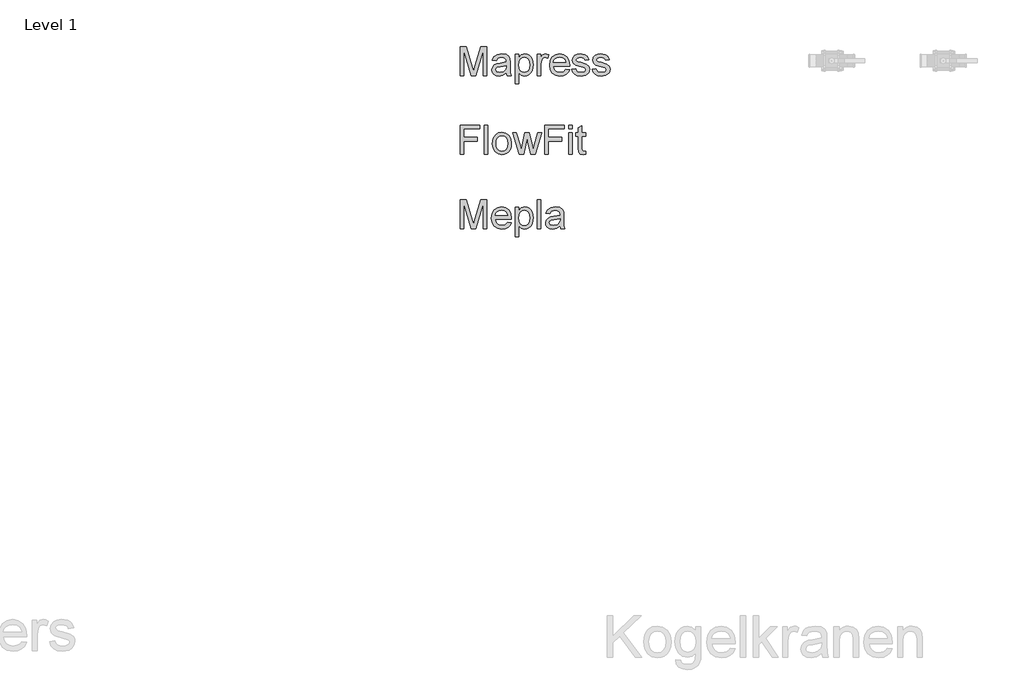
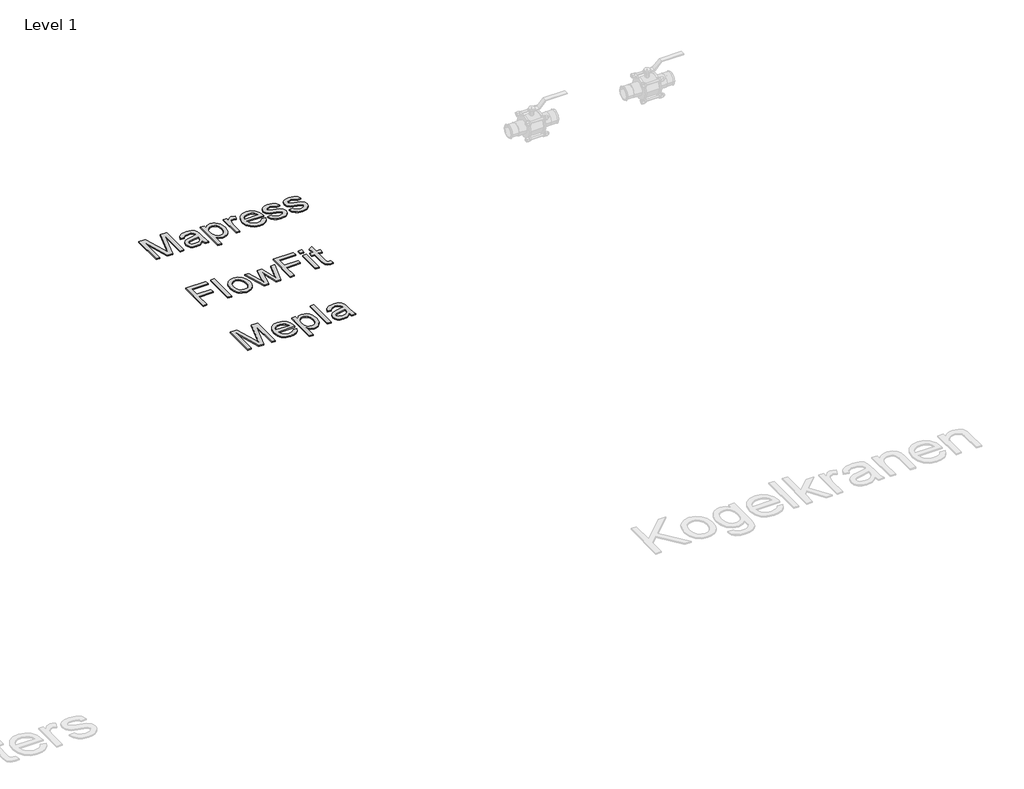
# One storey, part 4 of 4: 3 proxies.
"""IFC4 building model written with IfcOpenShell, lengths in millimetres."""

from ifc_helpers import new_model, si_unit, origin, origin_with_axes, place, context, project, spatial, polyline, outline, extrude, element, save

model = new_model("IFC4")

# Units and contexts
model_context = context("Model", 3, world=origin())
ifc_project = project(units=[si_unit("LENGTHUNIT", "METRE", prefix="MILLI")], contexts=[model_context])

# Site, building, storey
site = spatial("IfcSite", under=ifc_project)
building = spatial("IfcBuilding", under=site)
storey = spatial("IfcBuildingStorey", under=building, Name="Level 1", Elevation=0.0)

# Proxies
placement = place(None, origin())
element("IfcBuildingElementProxy", 1, Name="small", ObjectType="small", at=placement, inside=storey, context=model_context, shape_type="SweptSolid", body=[
    extrude(outline(polyline([(2444.7935537, 5718.9619491), (2444.7935537, 5859.6007833), (2475.0432639, 5859.6007833), (2503.816541, 5760.4737534), (2509.6192664, 5739.7693547), (2515.9026909, 5762.1905361), (2544.1952688, 5859.6007833), (2574.444979, 5859.6007833), (2574.444979, 5718.9619491), (2556.8651248, 5718.9619491), (2556.8651248, 5842.020929), (2521.5337379, 5718.9619491), (2497.7047948, 5718.9619491), (2462.373408, 5842.020929), (2462.373408, 5718.9619491), (2444.7935537, 5718.9619491)])), origin_with_axes(), (0.0, 0.0, 1.0), 5.0),
    extrude(outline(polyline([(2668.9366958, 5732.1468398), (2651.8890441, 5720.2323682), (2633.0559385, 5716.7644673), (2618.364571, 5718.8503582), (2607.5273806, 5725.1080309), (2600.8448041, 5734.6104229), (2598.6172787, 5746.4304714), (2601.9821726, 5760.3364108), (2610.8236033, 5770.4310927), (2623.1329348, 5776.1994824), (2638.343629, 5778.8433277), (2668.8336888, 5784.8864026), (2668.9366958, 5788.800667), (2667.726364, 5796.6463637), (2664.0953687, 5801.7795438), (2655.9749868, 5805.5908013), (2644.6613892, 5806.8612205), (2626.875521, 5803.4791586), (2618.3946147, 5791.478848), (2600.8147604, 5793.6763297), (2608.4201076, 5810.8441562), (2623.7338087, 5820.9045025), (2646.9275423, 5824.4410747), (2668.2328149, 5821.3165303), (2680.2674612, 5813.4708336), (2685.6581587, 5801.5391943), (2686.51655, 5786.1568218), (2686.51655, 5764.2850109), (2687.409277, 5733.7434476), (2690.9115136, 5718.9619491), (2673.3316593, 5718.9619491), (2668.9366958, 5732.1468398)]), holes=[polyline([(2668.9366958, 5767.3065483), (2640.5754465, 5761.9158508), (2625.4505914, 5759.0659916), (2618.6006286, 5754.4306785), (2616.1971329, 5747.6665549), (2621.43332, 5738.155579), (2636.7985247, 5734.3443216), (2654.5843929, 5738.550439), (2666.0525009, 5748.7309601), (2668.8336888, 5762.3278787), (2668.9366958, 5767.3065483)])]), origin_with_axes(), (0.0, 0.0, 1.0), 5.0),
    extrude(outline(polyline([(2710.6888497, 5679.407277), (2710.6888497, 5822.2435929), (2728.2687039, 5822.2435929), (2728.2687039, 5805.0070952), (2740.4235251, 5819.5825798), (2756.8359671, 5824.4410747), (2768.724687, 5822.7414599), (2779.1198059, 5817.6426155), (2787.5835443, 5809.4535622), (2793.6781227, 5798.4833211), (2798.5881211, 5771.392491), (2793.0429131, 5742.911067), (2786.2444538, 5731.7348119), (2776.9394919, 5723.5114231), (2766.1023015, 5718.4512062), (2754.7071567, 5716.7644673), (2739.4106233, 5721.2796056), (2728.2687039, 5732.6962102), (2728.2687039, 5679.407277), (2710.6888497, 5679.407277)]), holes=[polyline([(2728.2687039, 5769.7787153), (2730.1700407, 5754.0186507), (2735.8740511, 5742.9969061), (2744.290578, 5736.5074677), (2754.3294645, 5734.3443216), (2764.5314453, 5736.5847229), (2773.1625701, 5743.305927), (2779.0468426, 5754.7311155), (2781.0082668, 5771.0834701), (2779.0940541, 5786.7576957), (2773.3514162, 5797.9339507), (2764.9477651, 5804.629403), (2755.0505132, 5806.8612205), (2745.1146336, 5804.4877684), (2736.3890859, 5797.3674124), (2730.2987994, 5785.7233341), (2728.2687039, 5769.7787153)])]), origin_with_axes(), (0.0, 0.0, 1.0), 5.0),
    extrude(outline(polyline([(2818.3654571, 5718.9619491), (2818.3654571, 5822.2435929), (2833.7478296, 5822.2435929), (2833.7478296, 5806.9642274), (2844.6665672, 5821.0418451), (2855.6539761, 5824.4410747), (2873.3025017, 5819.0160416), (2867.4311051, 5803.2559769), (2855.07027, 5806.8612205), (2845.1300985, 5803.3933195), (2838.7951706, 5793.7793367), (2835.9453114, 5773.2466163), (2835.9453114, 5718.9619491), (2818.3654571, 5718.9619491)])), origin_with_axes(), (0.0, 0.0, 1.0), 5.0),
    extrude(outline(polyline([(2956.6007956, 5749.7266941), (2973.8372934, 5747.5292123), (2967.6268322, 5734.5417516), (2957.7167043, 5724.8333457), (2944.3300917, 5718.7816869), (2927.6901759, 5716.7644673), (2907.0630324, 5720.2452441), (2891.1913769, 5730.6875745), (2881.0709432, 5747.4133294), (2877.6974653, 5769.7443797), (2881.1052788, 5792.8265223), (2891.3287195, 5810.0887718), (2906.9857772, 5820.852999), (2926.694442, 5824.4410747), (2945.7893569, 5820.8615829), (2961.0472627, 5810.1231075), (2971.0518135, 5792.8951936), (2974.3866638, 5769.8473866), (2974.2836569, 5765.1090665), (2895.2773196, 5765.1090665), (2898.3203168, 5751.9499276), (2905.3891693, 5742.2758574), (2915.5911502, 5736.3272055), (2928.0335324, 5734.3443216), (2945.2700302, 5738.0182364), (2956.6007956, 5749.7266941)]), holes=[polyline([(2895.2773196, 5782.6889208), (2956.8068095, 5782.6889208), (2949.7680007, 5798.6206638), (2939.5188083, 5804.8010813), (2926.6257707, 5806.8612205), (2914.7756785, 5805.2174011), (2904.9771415, 5800.2859429), (2898.1658064, 5792.5990486), (2895.2773196, 5782.6889208)])]), origin_with_axes(), (0.0, 0.0, 1.0), 5.0),
    extrude(outline(polyline([(2985.3740727, 5749.7266941), (3002.953927, 5751.9241758), (3005.726531, 5744.4046679), (3011.0914767, 5738.8766277), (3029.7357363, 5734.3443216), (3047.6589471, 5738.4989356), (3053.4960081, 5748.250261), (3047.6246114, 5756.1474611), (3029.5297223, 5761.1604665), (3003.056934, 5769.7615475), (2991.5029868, 5779.804726), (2987.5715545, 5793.9853506), (2990.7304346, 5807.0844022), (2999.3486835, 5817.093245), (3010.5249385, 5822.2950964), (3025.6497936, 5824.4410747), (3047.0409053, 5820.9903416), (3060.6378239, 5811.651044), (3066.6808988, 5795.8738115), (3049.1010445, 5793.6763297), (3042.4914313, 5803.3761517), (3027.0232197, 5806.8612205), (3010.1987498, 5803.5306621), (3005.1514088, 5795.7708046), (3007.2458836, 5790.6547923), (3013.8039933, 5786.7748635), (3028.9460162, 5783.0322774), (3054.7492594, 5774.757385), (3066.7324022, 5765.3837518), (3071.0758623, 5750.1043862), (3065.9770179, 5733.2799163), (3051.2641906, 5721.0735917), (3029.4953867, 5716.7644673), (3011.7696059, 5718.8417743), (2998.8336487, 5725.0736953), (2990.198232, 5735.391559), (2985.3740727, 5749.7266941)])), origin_with_axes(), (0.0, 0.0, 1.0), 5.0),
    extrude(outline(polyline([(3084.260753, 5749.7266941), (3101.8406073, 5751.9241758), (3104.6132113, 5744.4046679), (3109.978157, 5738.8766277), (3128.6224166, 5734.3443216), (3146.5456274, 5738.4989356), (3152.3826884, 5748.250261), (3146.5112917, 5756.1474611), (3128.4164026, 5761.1604665), (3101.9436143, 5769.7615475), (3090.3896671, 5779.804726), (3086.4582348, 5793.9853506), (3089.6171149, 5807.0844022), (3098.2353638, 5817.093245), (3109.4116188, 5822.2950964), (3124.5364739, 5824.4410747), (3145.9275856, 5820.9903416), (3159.5245042, 5811.651044), (3165.5675791, 5795.8738115), (3147.9877248, 5793.6763297), (3141.3781116, 5803.3761517), (3125.9099, 5806.8612205), (3109.0854301, 5803.5306621), (3104.0380891, 5795.7708046), (3106.1325639, 5790.6547923), (3112.6906736, 5786.7748635), (3127.8326965, 5783.0322774), (3153.6359397, 5774.757385), (3165.6190825, 5765.3837518), (3169.9625426, 5750.1043862), (3164.8636982, 5733.2799163), (3150.1508709, 5721.0735917), (3128.382067, 5716.7644673), (3110.6562862, 5718.8417743), (3097.720329, 5725.0736953), (3089.0849123, 5735.391559), (3084.260753, 5749.7266941)])), origin_with_axes(), (0.0, 0.0, 1.0), 5.0),
])
element("IfcBuildingElementProxy", 2, Name="small", ObjectType="small", at=placement, inside=storey, context=model_context, shape_type="SweptSolid", body=[
    extrude(outline(polyline([(2444.7935537, 5338.9619491), (2444.7935537, 5479.6007833), (2539.2852705, 5479.6007833), (2539.2852705, 5462.020929), (2462.373408, 5462.020929), (2462.373408, 5420.2687751), (2528.2978616, 5420.2687751), (2528.2978616, 5402.6889208), (2462.373408, 5402.6889208), (2462.373408, 5338.9619491), (2444.7935537, 5338.9619491)])), origin_with_axes(), (0.0, 0.0, 1.0), 5.0),
    extrude(outline(polyline([(2561.2600883, 5338.9619491), (2561.2600883, 5479.6007833), (2578.8399426, 5479.6007833), (2578.8399426, 5338.9619491), (2561.2600883, 5338.9619491)])), origin_with_axes(), (0.0, 0.0, 1.0), 5.0),
    extrude(outline(polyline([(2600.8147604, 5390.602771), (2604.617434, 5415.5047033), (2616.0254547, 5433.0073023), (2630.1202402, 5441.5826316), (2646.9962136, 5444.4410747), (2665.4645029, 5440.9602979), (2680.2159577, 5430.5179675), (2689.885736, 5413.9381391), (2693.1089954, 5392.0448684), (2691.6840658, 5374.284752), (2687.409277, 5360.7650887), (2680.4090958, 5350.640363), (2670.8079888, 5343.0650596), (2659.4042601, 5338.3396154), (2646.9962136, 5336.7644673), (2628.3047425, 5340.2323682), (2613.5704555, 5350.6360711), (2604.0036842, 5367.5635479), (2600.8147604, 5390.602771)]), holes=[polyline([(2618.3946147, 5390.6371067), (2620.4290022, 5374.7268235), (2626.5321645, 5363.3917661), (2635.7169516, 5356.6061827), (2646.9962136, 5354.3443216), (2658.2239721, 5356.6190586), (2667.3915914, 5363.4432696), (2673.4947537, 5374.9285455), (2675.5291411, 5391.1864771), (2673.4818778, 5406.6332289), (2667.3400879, 5417.8137759), (2658.1595927, 5424.5993593), (2646.9962136, 5426.8612205), (2635.7169516, 5424.6079432), (2626.5321645, 5417.8481116), (2620.4290022, 5406.5388059), (2618.3946147, 5390.6371067)])]), origin_with_axes(), (0.0, 0.0, 1.0), 5.0),
    extrude(outline(polyline([(2730.0198222, 5338.9619491), (2698.6026999, 5442.2435929), (2716.8692672, 5442.2435929), (2734.689471, 5381.9845221), (2740.0114972, 5360.4560678), (2744.3721251, 5381.1948021), (2758.5527498, 5442.2435929), (2779.497498, 5442.2435929), (2793.6094514, 5381.3664804), (2797.4893802, 5362.5848783), (2803.0517559, 5382.39655), (2820.9062954, 5442.2435929), (2839.2415341, 5442.2435929), (2807.5840621, 5338.9619491), (2786.330293, 5338.9619491), (2772.8363814, 5399.5300408), (2768.922117, 5418.4146498), (2751.5139409, 5338.9619491), (2730.0198222, 5338.9619491)])), origin_with_axes(), (0.0, 0.0, 1.0), 5.0),
    extrude(outline(polyline([(2853.5251657, 5338.9619491), (2853.5251657, 5479.6007833), (2948.0168824, 5479.6007833), (2948.0168824, 5462.020929), (2871.1050199, 5462.020929), (2871.1050199, 5420.2687751), (2937.0294735, 5420.2687751), (2937.0294735, 5402.6889208), (2871.1050199, 5402.6889208), (2871.1050199, 5338.9619491), (2853.5251657, 5338.9619491)])), origin_with_axes(), (0.0, 0.0, 1.0), 5.0),
    extrude(outline(polyline([(2969.9917002, 5462.020929), (2969.9917002, 5479.6007833), (2987.5715545, 5479.6007833), (2987.5715545, 5462.020929), (2969.9917002, 5462.020929)])), origin_with_axes(), (0.0, 0.0, 1.0), 5.0),
    extrude(outline(polyline([(2969.9917002, 5338.9619491), (2969.9917002, 5442.2435929), (2987.5715545, 5442.2435929), (2987.5715545, 5338.9619491), (2969.9917002, 5338.9619491)])), origin_with_axes(), (0.0, 0.0, 1.0), 5.0),
    extrude(outline(polyline([(3051.2985263, 5353.6232729), (3053.4960081, 5338.4469143), (3040.345453, 5336.7644673), (3025.6154579, 5339.6829978), (3018.2676282, 5347.3398484), (3016.1388177, 5367.2888627), (3016.1388177, 5424.6637387), (3002.953927, 5424.6637387), (3002.953927, 5442.2435929), (3016.1388177, 5442.2435929), (3016.1388177, 5467.3429552), (3033.718672, 5477.6779867), (3033.718672, 5442.2435929), (3051.2985263, 5442.2435929), (3051.2985263, 5424.6637387), (3033.718672, 5424.6637387), (3033.718672, 5367.8038975), (3034.6457346, 5358.7392851), (3037.6501043, 5355.5289016), (3043.6416757, 5354.3443216), (3051.2985263, 5353.6232729)])), origin_with_axes(), (0.0, 0.0, 1.0), 5.0),
])
element("IfcBuildingElementProxy", 3, Name="small", ObjectType="small", at=placement, inside=storey, context=model_context, shape_type="SweptSolid", body=[
    extrude(outline(polyline([(2444.7935537, 4978.9619491), (2444.7935537, 5119.6007833), (2475.0432639, 5119.6007833), (2503.816541, 5020.4737534), (2509.6192664, 4999.7693547), (2515.9026909, 5022.1905361), (2544.1952688, 5119.6007833), (2574.444979, 5119.6007833), (2574.444979, 4978.9619491), (2556.8651248, 4978.9619491), (2556.8651248, 5102.020929), (2521.5337379, 4978.9619491), (2497.7047948, 4978.9619491), (2462.373408, 5102.020929), (2462.373408, 4978.9619491), (2444.7935537, 4978.9619491)])), origin_with_axes(), (0.0, 0.0, 1.0), 5.0),
    extrude(outline(polyline([(2675.3231272, 5009.7266941), (2692.5596249, 5007.5292123), (2686.3491637, 4994.5417516), (2676.4390359, 4984.8333457), (2663.0524233, 4978.7816869), (2646.4125075, 4976.7644673), (2625.785364, 4980.2452441), (2609.9137085, 4990.6875745), (2599.7932748, 5007.4133294), (2596.4197969, 5029.7443797), (2599.8276104, 5052.8265223), (2610.0510511, 5070.0887718), (2625.7081088, 5080.852999), (2645.4167735, 5084.4410747), (2664.5116885, 5080.8615829), (2679.7695942, 5070.1231075), (2689.7741451, 5052.8951936), (2693.1089954, 5029.8473866), (2693.0059884, 5025.1090665), (2613.9996512, 5025.1090665), (2617.0426484, 5011.9499276), (2624.1115009, 5002.2758574), (2634.3134818, 4996.3272055), (2646.755864, 4994.3443216), (2663.9923617, 4998.0182364), (2675.3231272, 5009.7266941)]), holes=[polyline([(2613.9996512, 5042.6889208), (2675.5291411, 5042.6889208), (2668.4903323, 5058.6206638), (2658.2411399, 5064.8010813), (2645.3481022, 5066.8612205), (2633.49801, 5065.2174011), (2623.6994731, 5060.2859429), (2616.888138, 5052.5990486), (2613.9996512, 5042.6889208)])]), origin_with_axes(), (0.0, 0.0, 1.0), 5.0),
    extrude(outline(polyline([(2710.6888497, 4939.407277), (2710.6888497, 5082.2435929), (2728.2687039, 5082.2435929), (2728.2687039, 5065.0070952), (2740.4235251, 5079.5825798), (2756.8359671, 5084.4410747), (2768.724687, 5082.7414599), (2779.1198059, 5077.6426155), (2787.5835443, 5069.4535622), (2793.6781227, 5058.4833211), (2798.5881211, 5031.392491), (2793.0429131, 5002.911067), (2786.2444538, 4991.7348119), (2776.9394919, 4983.5114231), (2766.1023015, 4978.4512062), (2754.7071567, 4976.7644673), (2739.4106233, 4981.2796056), (2728.2687039, 4992.6962102), (2728.2687039, 4939.407277), (2710.6888497, 4939.407277)]), holes=[polyline([(2728.2687039, 5029.7787153), (2730.1700407, 5014.0186507), (2735.8740511, 5002.9969061), (2744.290578, 4996.5074677), (2754.3294645, 4994.3443216), (2764.5314453, 4996.5847229), (2773.1625701, 5003.305927), (2779.0468426, 5014.7311155), (2781.0082668, 5031.0834701), (2779.0940541, 5046.7576957), (2773.3514162, 5057.9339507), (2764.9477651, 5064.629403), (2755.0505132, 5066.8612205), (2745.1146336, 5064.4877684), (2736.3890859, 5057.3674124), (2730.2987994, 5045.7233341), (2728.2687039, 5029.7787153)])]), origin_with_axes(), (0.0, 0.0, 1.0), 5.0),
    extrude(outline(polyline([(2818.3654571, 4978.9619491), (2818.3654571, 5119.6007833), (2835.9453114, 5119.6007833), (2835.9453114, 4978.9619491), (2818.3654571, 4978.9619491)])), origin_with_axes(), (0.0, 0.0, 1.0), 5.0),
    extrude(outline(polyline([(2928.2395463, 4992.1468398), (2911.1918947, 4980.2323682), (2892.3587891, 4976.7644673), (2877.6674216, 4978.8503582), (2866.8302312, 4985.1080309), (2860.1476547, 4994.6104229), (2857.9201292, 5006.4304714), (2861.2850232, 5020.3364108), (2870.1264538, 5030.4310927), (2882.4357854, 5036.1994824), (2897.6464796, 5038.8433277), (2928.1365394, 5044.8864026), (2928.2395463, 5048.800667), (2927.0292146, 5056.6463637), (2923.3982193, 5061.7795438), (2915.2778374, 5065.5908013), (2903.9642397, 5066.8612205), (2886.1783716, 5063.4791586), (2877.6974653, 5051.478848), (2860.117611, 5053.6763297), (2867.7229581, 5070.8441562), (2883.0366593, 5080.9045025), (2906.2303928, 5084.4410747), (2927.5356655, 5081.3165303), (2939.5703118, 5073.4708336), (2944.9610093, 5061.5391943), (2945.8194006, 5046.1568218), (2945.8194006, 5024.2850109), (2946.7121276, 4993.7434476), (2950.2143642, 4978.9619491), (2932.6345099, 4978.9619491), (2928.2395463, 4992.1468398)]), holes=[polyline([(2928.2395463, 5027.3065483), (2899.8782971, 5021.9158508), (2884.753442, 5019.0659916), (2877.9034792, 5014.4306785), (2875.4999835, 5007.6665549), (2880.7361706, 4998.155579), (2896.1013752, 4994.3443216), (2913.8872434, 4998.550439), (2925.3553515, 5008.7309601), (2928.1365394, 5022.3278787), (2928.2395463, 5027.3065483)])]), origin_with_axes(), (0.0, 0.0, 1.0), 5.0),
])

save(model, "model.ifc")
